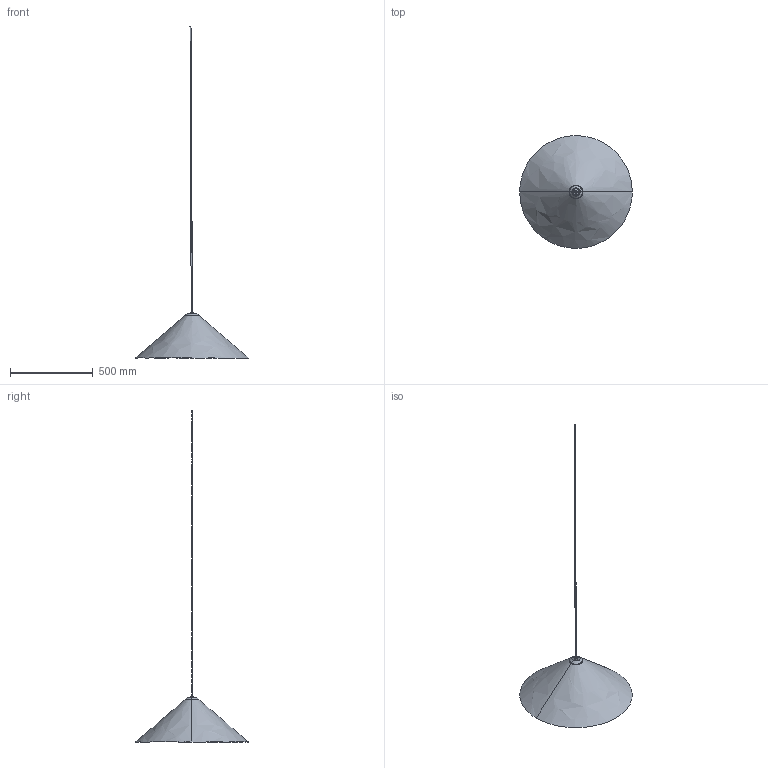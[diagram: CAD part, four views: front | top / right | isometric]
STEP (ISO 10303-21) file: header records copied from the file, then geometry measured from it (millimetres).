
FILE_DESCRIPTION(/* description */ (''),/* implementation_level */ '2;1');
FILE_NAME(/* name */ 'Dou Pendant Ø68_3D',/* time_stamp */ '2021-05-03T15:54:07+02:00',/* author */ (''),/* organization */ (''),/* preprocessor_version */ 'ST-DEVELOPER v16.5',/* originating_system */ '',/* authorisation */ '');
FILE_SCHEMA (('CONFIG_CONTROL_DESIGN'));
Length unit declared in the file: millimetre
Products named in the file (1): Document
Bounding box: 680 x 678.78 x 2003.3 mm (x, y, z)
Volume: 1144835.9 mm3; surface area: 592564.1 mm2
Topology: 11 solids, 12 shells, 53 faces, 110 edges, 74 vertices
Faces by surface type: bspline 22, plane 16, cylinder 15
Full cylindrical faces by diameter (mm): 40 x1
Entity records: 1855 total; most frequent: CARTESIAN_POINT 1124, ORIENTED_EDGE 182, EDGE_CURVE 93, VERTEX_POINT 58, EDGE_LOOP 55, ADVANCED_FACE 53, FACE_OUTER_BOUND 53, DIRECTION 38
